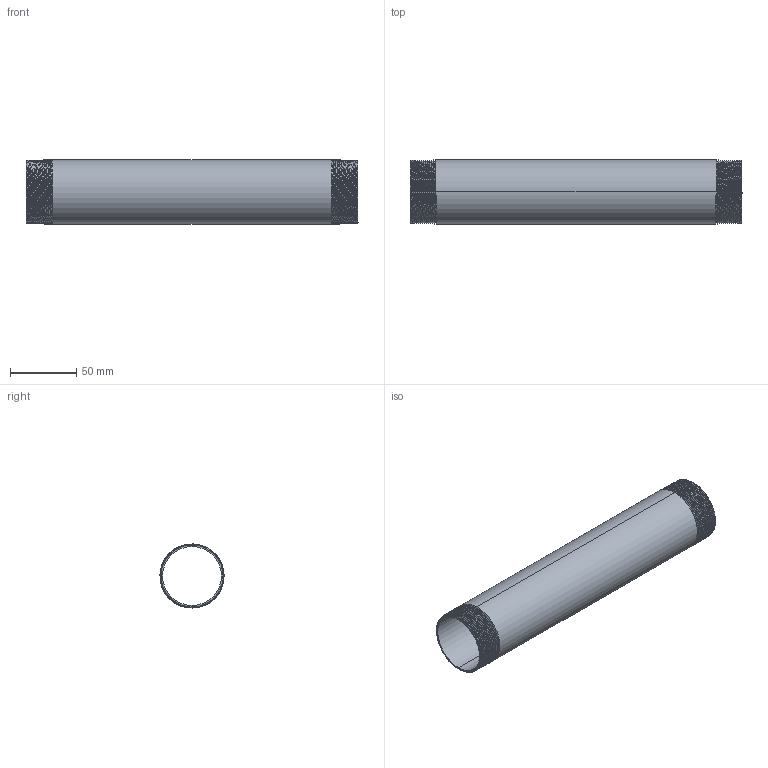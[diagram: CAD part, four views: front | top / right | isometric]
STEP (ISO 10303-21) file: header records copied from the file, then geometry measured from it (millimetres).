
FILE_DESCRIPTION (( 'STEP AP203' ), '1' );
FILE_NAME ('3D_R210_1 1-2x250_17185939.STEP', '2024-08-16T14:14:28', ( '' ), ( '' ), 'SwSTEP 2.0', 'SolidWorks 2024', '' );
FILE_SCHEMA (( 'CONFIG_CONTROL_DESIGN' ));
Length unit declared in the file: millimetre
Products named in the file (1): 3D_R210_1 1-2x250_17185939
Bounding box: 250 x 48.29 x 48.3 mm (x, y, z)
Volume: 70131.4 mm3; surface area: 76256.5 mm2
Topology: 1 solids, 1 shells, 70 faces, 198 edges, 130 vertices
Faces by surface type: cone 56, bspline 6, cylinder 4, plane 4
Entity records: 12165 total; most frequent: CARTESIAN_POINT 10533, ORIENTED_EDGE 396, DIRECTION 218, EDGE_CURVE 198, VERTEX_POINT 130, B_SPLINE_CURVE_WITH_KNOTS 114, AXIS2_PLACEMENT_3D 77, EDGE_LOOP 72
